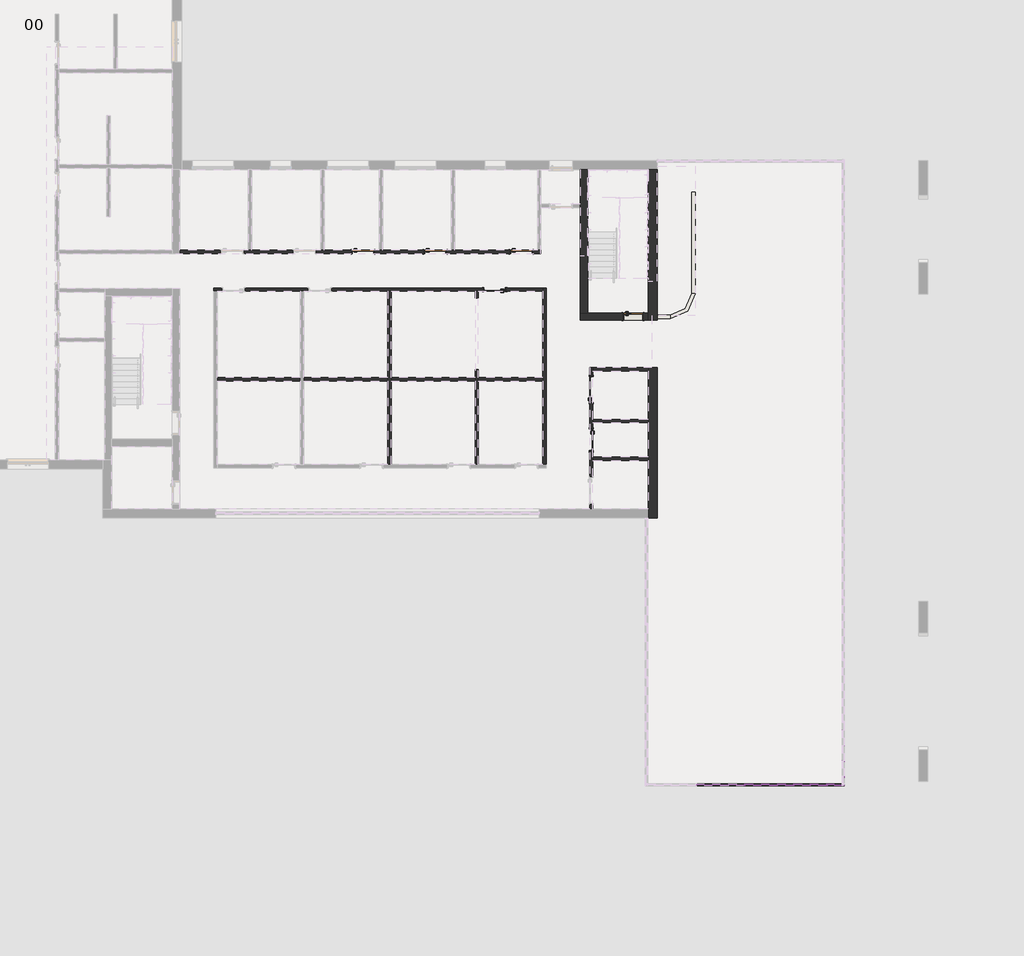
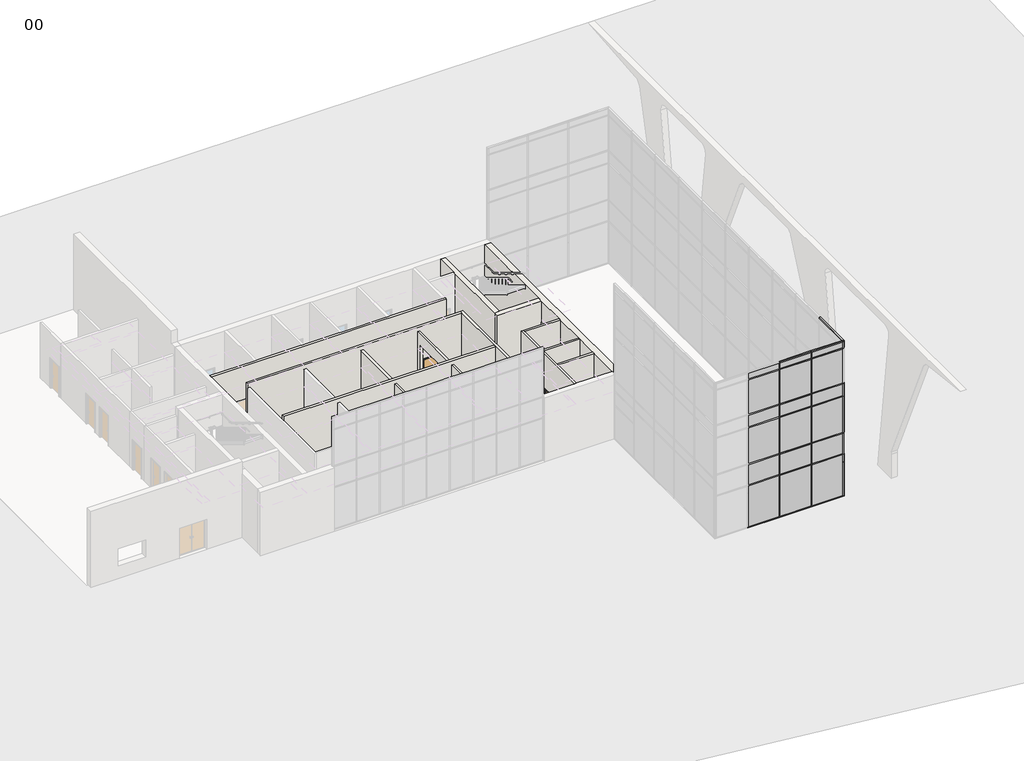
# One storey, part 4 of 11: 39 members, 18 plates, 16 walls, 7 doors.
"""IFC4 building model written with IfcOpenShell, lengths in millimetres."""

from ifc_helpers import new_model, si_unit, point, frame, frame_2d, origin, origin_with_axes, place, context, project, spatial, polyline, circle_curve, trimmed, segment, composite_curve, outline, extrude, faceted_brep, transform, mapped, element, save
from components import doors_intsgl_1_1010x2110mm_12a6edaf, doors_intsgl_1_1200x2110mm_e831e5cc, doors_intsgl_3_910x2110mm_ed6625c4, rectangular_mullion_curtainwallmullion_rectangular_generic_8ae0e668, rectangular_mullion_curtainwallmullion_rectangular_generic_15c16c91, rectangular_mullion_curtainwallmullion_rectangular_generic_08fbcc14, rectangular_mullion_curtainwallmullion_rectangular_generic_d5294c93, rectangular_mullion_curtainwallmullion_rectangular_generic_779ca808, rectangular_mullion_curtainwallmullion_rectangular_generic_397fb318, rectangular_mullion_curtainwallmullion_rectangular_generic_0800385b, rectangular_mullion_curtainwallmullion_rectangular_generic_25199054, rectangular_mullion_curtainwallmullion_rectangular_generic_f1446028, rectangular_mullion_curtainwallmullion_rectangular_generic_cb270087, rectangular_mullion_curtainwallmullion_rectangular_generic_974284e1, rectangular_mullion_curtainwallmullion_rectangular_generic_654ac675, rectangular_mullion_curtainwallmullion_rectangular_generic_e7c47ca9, rectangular_mullion_curtainwallmullion_rectangular_generic_c0600e94, rectangular_mullion_curtainwallmullion_rectangular_generic_3bdb59d8, rectangular_mullion_curtainwallmullion_rectangular_generic_aa8766cf, rectangular_mullion_curtainwallmullion_rectangular_generic_c640f651, rectangular_mullion_curtainwallmullion_rectangular_generic_afb0b622, rectangular_mullion_curtainwallmullion_rectangular_generic_d47b8a9d, system_panel_curtainpanel_glazed_9120b6e5, system_panel_curtainpanel_glazed_a0842033, system_panel_curtainpanel_glazed_19b159b3, system_panel_curtainpanel_solid_62146879, system_panel_curtainpanel_solid_ebe6707a, system_panel_curtainpanel_solid_ff987cd1

model = new_model("IFC4")

# Units and contexts
model_context = context("Model", 3, world=origin())
ifc_project = project(units=[si_unit("LENGTHUNIT", "METRE", prefix="MILLI")], contexts=[model_context])

# Site, building, storey
site = spatial("IfcSite", under=ifc_project)
building = spatial("IfcBuilding", under=site)
storey = spatial("IfcBuildingStorey", under=building, Name="00", Elevation=0.0)

# Doors
placement = place(None, origin())
doors_intsgl_1_1010x2110mm_shape = doors_intsgl_1_1010x2110mm_12a6edaf(model_context)
element("IfcDoor", 1, ObjectType="Doors_IntSgl_1 : 1010x2110mm", at=placement, inside=storey, context=model_context, shape_type="MappedRepresentation", body=[
    mapped(doors_intsgl_1_1010x2110mm_shape, transform((433317.3206883, -385124.0026386, 0.0), x_axis=(1.0, 0.0, 0.0), y_axis=(0.0, 1.0, 0.0), z_axis=(0.0, 0.0, 1.0))),
])
element("IfcDoor", 2, ObjectType="Doors_IntSgl_1 : 1010x2110mm", at=placement, inside=storey, context=model_context, shape_type="MappedRepresentation", body=[
    mapped(doors_intsgl_1_1010x2110mm_shape, transform((436467.3206883, -385124.0026386, 0.0), x_axis=(1.0, 0.0, 0.0), y_axis=(0.0, 1.0, 0.0), z_axis=(0.0, 0.0, 1.0))),
])
element("IfcDoor", 3, ObjectType="Doors_IntSgl_1 : 1010x2110mm", at=placement, inside=storey, context=model_context, shape_type="MappedRepresentation", body=[
    mapped(doors_intsgl_1_1010x2110mm_shape, transform((440217.3206883, -385124.0026386, 0.0), x_axis=(1.0, 0.0, 0.0), y_axis=(0.0, 1.0, 0.0), z_axis=(0.0, 0.0, 1.0))),
])
element("IfcDoor", 4, ObjectType="Doors_IntSgl_1 : 1010x2110mm", at=placement, inside=storey, context=model_context, shape_type="MappedRepresentation", body=[
    mapped(doors_intsgl_1_1010x2110mm_shape, transform((443263.3206883, -393328.0026386, 0.0), x_axis=(0.0, -1.0, 0.0), y_axis=(1.0, 0.0, 0.0), z_axis=(0.0, 0.0, 1.0))),
])
element("IfcDoor", 5, ObjectType="Doors_IntSgl_1 : 1010x2110mm", at=placement, inside=storey, context=model_context, shape_type="MappedRepresentation", body=[
    mapped(doors_intsgl_1_1010x2110mm_shape, transform((439053.3206883, -386774.0026386, 0.0), x_axis=(-1.0, 0.0, 0.0), y_axis=(0.0, -1.0, 0.0), z_axis=(0.0, 0.0, 1.0))),
])
doors_intsgl_1_1200x2110mm_shape = doors_intsgl_1_1200x2110mm_e831e5cc(model_context)
element("IfcDoor", 6, ObjectType="Doors_IntSgl_1 : 1200x2110mm", at=placement, inside=storey, context=model_context, shape_type="MappedRepresentation", body=[
    mapped(doors_intsgl_1_1200x2110mm_shape, transform((443263.3206883, -391128.0026386, 0.0), x_axis=(0.0, 1.0, 0.0), y_axis=(-1.0, 0.0, 0.0), z_axis=(0.0, 0.0, 1.0))),
])
doors_intsgl_3_910x2110mm_shape = doors_intsgl_3_910x2110mm_ed6625c4(model_context)
element("IfcDoor", 7, ObjectType="Doors_IntSgl_3 : 910x2110mm", at=placement, inside=storey, context=model_context, shape_type="MappedRepresentation", body=[
    mapped(doors_intsgl_3_910x2110mm_shape, transform((445083.3206883, -387955.0026386, 0.0), x_axis=(1.0, 0.0, 0.0), y_axis=(0.0, 1.0, 0.0), z_axis=(0.0, 0.0, 1.0))),
])

# Members
rectangular_mullion_curtainwallmullion_rectangular_generic_shape = rectangular_mullion_curtainwallmullion_rectangular_generic_8ae0e668(model_context)
element("IfcMember", 8, ObjectType="Rectangular Mullion : CurtainWallMullion_Rectangular_Generic", at=placement, inside=storey, context=model_context, shape_type="MappedRepresentation", body=[
    mapped(rectangular_mullion_curtainwallmullion_rectangular_generic_shape, transform((452089.3206882, -408366.0026386, 10486.7), x_axis=(-1.0, 0.0, 0.0), y_axis=(0.0, 1.0, 0.0), z_axis=(0.0, 0.0, -1.0))),
])
element("IfcMember", 9, ObjectType="Rectangular Mullion : CurtainWallMullion_Rectangular_Generic", at=placement, inside=storey, context=model_context, shape_type="MappedRepresentation", body=[
    mapped(rectangular_mullion_curtainwallmullion_rectangular_generic_shape, transform((449957.3206883, -408366.0026386, 10486.7), x_axis=(-1.0, 0.0, 0.0), y_axis=(0.0, 1.0, 0.0), z_axis=(0.0, 0.0, -1.0))),
])
rectangular_mullion_curtainwallmullion_rectangular_generic_2_shape = rectangular_mullion_curtainwallmullion_rectangular_generic_15c16c91(model_context)
element("IfcMember", 10, ObjectType="Rectangular Mullion : CurtainWallMullion_Rectangular_Generic", at=placement, inside=storey, context=model_context, shape_type="MappedRepresentation", body=[
    mapped(rectangular_mullion_curtainwallmullion_rectangular_generic_2_shape, transform((454246.3206883, -408366.0026386, 10486.7), x_axis=(0.0, -1.0, 0.0), y_axis=(-1.0, 0.0, 0.0), z_axis=(0.0, 0.0, -1.0))),
])
element("IfcMember", 11, ObjectType="Rectangular Mullion : CurtainWallMullion_Rectangular_Generic", at=placement, inside=storey, context=model_context, shape_type="MappedRepresentation", body=[
    mapped(rectangular_mullion_curtainwallmullion_rectangular_generic_2_shape, transform((454246.3206883, -408366.0026386, 10950.0), x_axis=(1.0, 0.0, 0.0), y_axis=(0.0, 1.0, 0.0), z_axis=(0.0, 0.0, 1.0))),
])
rectangular_mullion_curtainwallmullion_rectangular_generic_3_shape = rectangular_mullion_curtainwallmullion_rectangular_generic_08fbcc14(model_context)
element("IfcMember", 12, ObjectType="Rectangular Mullion : CurtainWallMullion_Rectangular_Generic", at=placement, inside=storey, context=model_context, shape_type="MappedRepresentation", body=[
    mapped(rectangular_mullion_curtainwallmullion_rectangular_generic_3_shape, transform((452089.3206882, -408366.0026386, 8000.0), x_axis=(-1.0, 0.0, 0.0), y_axis=(0.0, 1.0, 0.0), z_axis=(0.0, 0.0, -1.0))),
])
element("IfcMember", 13, ObjectType="Rectangular Mullion : CurtainWallMullion_Rectangular_Generic", at=placement, inside=storey, context=model_context, shape_type="MappedRepresentation", body=[
    mapped(rectangular_mullion_curtainwallmullion_rectangular_generic_3_shape, transform((449957.3206883, -408366.0026386, 8000.0), x_axis=(-1.0, 0.0, 0.0), y_axis=(0.0, 1.0, 0.0), z_axis=(0.0, 0.0, -1.0))),
])
rectangular_mullion_curtainwallmullion_rectangular_generic_4_shape = rectangular_mullion_curtainwallmullion_rectangular_generic_d5294c93(model_context)
element("IfcMember", 14, ObjectType="Rectangular Mullion : CurtainWallMullion_Rectangular_Generic", at=placement, inside=storey, context=model_context, shape_type="MappedRepresentation", body=[
    mapped(rectangular_mullion_curtainwallmullion_rectangular_generic_4_shape, transform((452089.3206882, -408366.0026386, 50.0), x_axis=(-1.0, 0.0, 0.0), y_axis=(0.0, 1.0, 0.0), z_axis=(0.0, 0.0, -1.0))),
])
element("IfcMember", 15, ObjectType="Rectangular Mullion : CurtainWallMullion_Rectangular_Generic", at=placement, inside=storey, context=model_context, shape_type="MappedRepresentation", body=[
    mapped(rectangular_mullion_curtainwallmullion_rectangular_generic_4_shape, transform((449957.3206883, -408366.0026386, 50.0), x_axis=(-1.0, 0.0, 0.0), y_axis=(0.0, 1.0, 0.0), z_axis=(0.0, 0.0, -1.0))),
])
rectangular_mullion_curtainwallmullion_rectangular_generic_5_shape = rectangular_mullion_curtainwallmullion_rectangular_generic_779ca808(model_context)
element("IfcMember", 16, ObjectType="Rectangular Mullion : CurtainWallMullion_Rectangular_Generic", at=placement, inside=storey, context=model_context, shape_type="MappedRepresentation", body=[
    mapped(rectangular_mullion_curtainwallmullion_rectangular_generic_5_shape, transform((454246.3206883, -408366.0026386, 2450.0), x_axis=(1.0, 0.0, 0.0), y_axis=(0.0, 1.0, 0.0), z_axis=(0.0, 0.0, 1.0))),
])
rectangular_mullion_curtainwallmullion_rectangular_generic_6_shape = rectangular_mullion_curtainwallmullion_rectangular_generic_397fb318(model_context)
element("IfcMember", 17, ObjectType="Rectangular Mullion : CurtainWallMullion_Rectangular_Generic", at=placement, inside=storey, context=model_context, shape_type="MappedRepresentation", body=[
    mapped(rectangular_mullion_curtainwallmullion_rectangular_generic_6_shape, transform((454246.3206883, -408366.0026386, 50.0), x_axis=(0.0, -1.0, 0.0), y_axis=(-1.0, 0.0, 0.0), z_axis=(0.0, 0.0, -1.0))),
])
rectangular_mullion_curtainwallmullion_rectangular_generic_7_shape = rectangular_mullion_curtainwallmullion_rectangular_generic_0800385b(model_context)
element("IfcMember", 18, ObjectType="Rectangular Mullion : CurtainWallMullion_Rectangular_Generic", at=placement, inside=storey, context=model_context, shape_type="MappedRepresentation", body=[
    mapped(rectangular_mullion_curtainwallmullion_rectangular_generic_7_shape, transform((454246.3206883, -408366.0026386, 11000.0), x_axis=(0.0, 0.0, 1.0), y_axis=(-1.0, 0.0, 0.0), z_axis=(0.0, -1.0, 0.0))),
])
rectangular_mullion_curtainwallmullion_rectangular_generic_8_shape = rectangular_mullion_curtainwallmullion_rectangular_generic_25199054(model_context)
element("IfcMember", 19, ObjectType="Rectangular Mullion : CurtainWallMullion_Rectangular_Generic", at=placement, inside=storey, context=model_context, shape_type="MappedRepresentation", body=[
    mapped(rectangular_mullion_curtainwallmullion_rectangular_generic_8_shape, transform((452089.3206882, -408366.0026386, 11000.0), x_axis=(0.0, 0.0, 1.0), y_axis=(0.0, 1.0, 0.0), z_axis=(-1.0, 0.0, 0.0))),
])
rectangular_mullion_curtainwallmullion_rectangular_generic_9_shape = rectangular_mullion_curtainwallmullion_rectangular_generic_f1446028(model_context)
element("IfcMember", 20, ObjectType="Rectangular Mullion : CurtainWallMullion_Rectangular_Generic", at=placement, inside=storey, context=model_context, shape_type="MappedRepresentation", body=[
    mapped(rectangular_mullion_curtainwallmullion_rectangular_generic_9_shape, transform((454246.3206883, -408366.0026386, 0.0), x_axis=(0.0, 0.0, -1.0), y_axis=(0.0, 1.0, 0.0), z_axis=(1.0, 0.0, 0.0))),
])
rectangular_mullion_curtainwallmullion_rectangular_generic_10_shape = rectangular_mullion_curtainwallmullion_rectangular_generic_cb270087(model_context)
element("IfcMember", 21, ObjectType="Rectangular Mullion : CurtainWallMullion_Rectangular_Generic", at=placement, inside=storey, context=model_context, shape_type="MappedRepresentation", body=[
    mapped(rectangular_mullion_curtainwallmullion_rectangular_generic_10_shape, transform((449957.3206883, -408366.0026386, 11000.0), x_axis=(0.0, 0.0, 1.0), y_axis=(0.0, 1.0, 0.0), z_axis=(-1.0, 0.0, 0.0))),
])
element("IfcMember", 22, ObjectType="Rectangular Mullion : CurtainWallMullion_Rectangular_Generic", at=placement, inside=storey, context=model_context, shape_type="MappedRepresentation", body=[
    mapped(rectangular_mullion_curtainwallmullion_rectangular_generic_10_shape, transform((452089.3206882, -408366.0026386, 0.0), x_axis=(0.0, 0.0, -1.0), y_axis=(0.0, 1.0, 0.0), z_axis=(1.0, 0.0, 0.0))),
])
element("IfcMember", 23, ObjectType="Rectangular Mullion : CurtainWallMullion_Rectangular_Generic", at=placement, inside=storey, context=model_context, shape_type="MappedRepresentation", body=[
    mapped(rectangular_mullion_curtainwallmullion_rectangular_generic_10_shape, transform((449957.3206883, -408366.0026386, 0.0), x_axis=(0.0, 0.0, -1.0), y_axis=(0.0, 1.0, 0.0), z_axis=(1.0, 0.0, 0.0))),
])
rectangular_mullion_curtainwallmullion_rectangular_generic_11_shape = rectangular_mullion_curtainwallmullion_rectangular_generic_974284e1(model_context)
element("IfcMember", 24, ObjectType="Rectangular Mullion : CurtainWallMullion_Rectangular_Generic", at=placement, inside=storey, context=model_context, shape_type="MappedRepresentation", body=[
    mapped(rectangular_mullion_curtainwallmullion_rectangular_generic_11_shape, transform((452114.3206882, -408366.0026386, 4500.0), x_axis=(0.0, 0.0, 1.0), y_axis=(0.0, 1.0, 0.0), z_axis=(-1.0, 0.0, 0.0))),
])
element("IfcMember", 25, ObjectType="Rectangular Mullion : CurtainWallMullion_Rectangular_Generic", at=placement, inside=storey, context=model_context, shape_type="MappedRepresentation", body=[
    mapped(rectangular_mullion_curtainwallmullion_rectangular_generic_11_shape, transform((449982.3206883, -408366.0026386, 4500.0), x_axis=(0.0, 0.0, 1.0), y_axis=(0.0, 1.0, 0.0), z_axis=(-1.0, 0.0, 0.0))),
])
element("IfcMember", 26, ObjectType="Rectangular Mullion : CurtainWallMullion_Rectangular_Generic", at=placement, inside=storey, context=model_context, shape_type="MappedRepresentation", body=[
    mapped(rectangular_mullion_curtainwallmullion_rectangular_generic_11_shape, transform((452114.3206882, -408366.0026386, 7100.0), x_axis=(0.0, 0.0, 1.0), y_axis=(0.0, 1.0, 0.0), z_axis=(-1.0, 0.0, 0.0))),
])
element("IfcMember", 27, ObjectType="Rectangular Mullion : CurtainWallMullion_Rectangular_Generic", at=placement, inside=storey, context=model_context, shape_type="MappedRepresentation", body=[
    mapped(rectangular_mullion_curtainwallmullion_rectangular_generic_11_shape, transform((449982.3206883, -408366.0026386, 7100.0), x_axis=(0.0, 0.0, 1.0), y_axis=(0.0, 1.0, 0.0), z_axis=(-1.0, 0.0, 0.0))),
])
element("IfcMember", 28, ObjectType="Rectangular Mullion : CurtainWallMullion_Rectangular_Generic", at=placement, inside=storey, context=model_context, shape_type="MappedRepresentation", body=[
    mapped(rectangular_mullion_curtainwallmullion_rectangular_generic_11_shape, transform((452114.3206882, -408366.0026386, 10486.7), x_axis=(0.0, 0.0, 1.0), y_axis=(0.0, 1.0, 0.0), z_axis=(-1.0, 0.0, 0.0))),
])
element("IfcMember", 29, ObjectType="Rectangular Mullion : CurtainWallMullion_Rectangular_Generic", at=placement, inside=storey, context=model_context, shape_type="MappedRepresentation", body=[
    mapped(rectangular_mullion_curtainwallmullion_rectangular_generic_11_shape, transform((449982.3206883, -408366.0026386, 10486.7), x_axis=(0.0, 0.0, 1.0), y_axis=(0.0, 1.0, 0.0), z_axis=(-1.0, 0.0, 0.0))),
])
element("IfcMember", 30, ObjectType="Rectangular Mullion : CurtainWallMullion_Rectangular_Generic", at=placement, inside=storey, context=model_context, shape_type="MappedRepresentation", body=[
    mapped(rectangular_mullion_curtainwallmullion_rectangular_generic_11_shape, transform((452114.3206882, -408366.0026386, 3000.0), x_axis=(0.0, 0.0, 1.0), y_axis=(0.0, 1.0, 0.0), z_axis=(-1.0, 0.0, 0.0))),
])
element("IfcMember", 31, ObjectType="Rectangular Mullion : CurtainWallMullion_Rectangular_Generic", at=placement, inside=storey, context=model_context, shape_type="MappedRepresentation", body=[
    mapped(rectangular_mullion_curtainwallmullion_rectangular_generic_11_shape, transform((449982.3206883, -408366.0026386, 3000.0), x_axis=(0.0, 0.0, 1.0), y_axis=(0.0, 1.0, 0.0), z_axis=(-1.0, 0.0, 0.0))),
])
element("IfcMember", 32, ObjectType="Rectangular Mullion : CurtainWallMullion_Rectangular_Generic", at=placement, inside=storey, context=model_context, shape_type="MappedRepresentation", body=[
    mapped(rectangular_mullion_curtainwallmullion_rectangular_generic_11_shape, transform((452114.3206882, -408366.0026386, 8000.0), x_axis=(0.0, 0.0, 1.0), y_axis=(0.0, 1.0, 0.0), z_axis=(-1.0, 0.0, 0.0))),
])
element("IfcMember", 33, ObjectType="Rectangular Mullion : CurtainWallMullion_Rectangular_Generic", at=placement, inside=storey, context=model_context, shape_type="MappedRepresentation", body=[
    mapped(rectangular_mullion_curtainwallmullion_rectangular_generic_11_shape, transform((449982.3206883, -408366.0026386, 8000.0), x_axis=(0.0, 0.0, 1.0), y_axis=(0.0, 1.0, 0.0), z_axis=(-1.0, 0.0, 0.0))),
])
rectangular_mullion_curtainwallmullion_rectangular_generic_12_shape = rectangular_mullion_curtainwallmullion_rectangular_generic_654ac675(model_context)
element("IfcMember", 34, ObjectType="Rectangular Mullion : CurtainWallMullion_Rectangular_Generic", at=placement, inside=storey, context=model_context, shape_type="MappedRepresentation", body=[
    mapped(rectangular_mullion_curtainwallmullion_rectangular_generic_12_shape, transform((452089.3206882, -408366.0026386, 4500.0), x_axis=(-1.0, 0.0, 0.0), y_axis=(0.0, 1.0, 0.0), z_axis=(0.0, 0.0, -1.0))),
])
element("IfcMember", 35, ObjectType="Rectangular Mullion : CurtainWallMullion_Rectangular_Generic", at=placement, inside=storey, context=model_context, shape_type="MappedRepresentation", body=[
    mapped(rectangular_mullion_curtainwallmullion_rectangular_generic_12_shape, transform((449957.3206883, -408366.0026386, 4500.0), x_axis=(-1.0, 0.0, 0.0), y_axis=(0.0, 1.0, 0.0), z_axis=(0.0, 0.0, -1.0))),
])
rectangular_mullion_curtainwallmullion_rectangular_generic_13_shape = rectangular_mullion_curtainwallmullion_rectangular_generic_e7c47ca9(model_context)
element("IfcMember", 36, ObjectType="Rectangular Mullion : CurtainWallMullion_Rectangular_Generic", at=placement, inside=storey, context=model_context, shape_type="MappedRepresentation", body=[
    mapped(rectangular_mullion_curtainwallmullion_rectangular_generic_13_shape, transform((454246.3206883, -408366.0026386, 4500.0), x_axis=(0.0, -1.0, 0.0), y_axis=(-1.0, 0.0, 0.0), z_axis=(0.0, 0.0, -1.0))),
])
element("IfcMember", 37, ObjectType="Rectangular Mullion : CurtainWallMullion_Rectangular_Generic", at=placement, inside=storey, context=model_context, shape_type="MappedRepresentation", body=[
    mapped(rectangular_mullion_curtainwallmullion_rectangular_generic_13_shape, transform((454246.3206883, -408366.0026386, 7100.0), x_axis=(1.0, 0.0, 0.0), y_axis=(0.0, 1.0, 0.0), z_axis=(0.0, 0.0, 1.0))),
])
rectangular_mullion_curtainwallmullion_rectangular_generic_14_shape = rectangular_mullion_curtainwallmullion_rectangular_generic_c0600e94(model_context)
element("IfcMember", 38, ObjectType="Rectangular Mullion : CurtainWallMullion_Rectangular_Generic", at=placement, inside=storey, context=model_context, shape_type="MappedRepresentation", body=[
    mapped(rectangular_mullion_curtainwallmullion_rectangular_generic_14_shape, transform((452089.3206882, -408366.0026386, 3000.0), x_axis=(-1.0, 0.0, 0.0), y_axis=(0.0, 1.0, 0.0), z_axis=(0.0, 0.0, -1.0))),
])
element("IfcMember", 39, ObjectType="Rectangular Mullion : CurtainWallMullion_Rectangular_Generic", at=placement, inside=storey, context=model_context, shape_type="MappedRepresentation", body=[
    mapped(rectangular_mullion_curtainwallmullion_rectangular_generic_14_shape, transform((449957.3206883, -408366.0026386, 3000.0), x_axis=(-1.0, 0.0, 0.0), y_axis=(0.0, 1.0, 0.0), z_axis=(0.0, 0.0, -1.0))),
])
rectangular_mullion_curtainwallmullion_rectangular_generic_15_shape = rectangular_mullion_curtainwallmullion_rectangular_generic_3bdb59d8(model_context)
element("IfcMember", 40, ObjectType="Rectangular Mullion : CurtainWallMullion_Rectangular_Generic", at=placement, inside=storey, context=model_context, shape_type="MappedRepresentation", body=[
    mapped(rectangular_mullion_curtainwallmullion_rectangular_generic_15_shape, transform((454246.3206883, -408366.0026386, 4500.0), x_axis=(1.0, 0.0, 0.0), y_axis=(0.0, 1.0, 0.0), z_axis=(0.0, 0.0, 1.0))),
])
rectangular_mullion_curtainwallmullion_rectangular_generic_16_shape = rectangular_mullion_curtainwallmullion_rectangular_generic_aa8766cf(model_context)
element("IfcMember", 41, ObjectType="Rectangular Mullion : CurtainWallMullion_Rectangular_Generic", at=placement, inside=storey, context=model_context, shape_type="MappedRepresentation", body=[
    mapped(rectangular_mullion_curtainwallmullion_rectangular_generic_16_shape, transform((452089.3206882, -408366.0026386, 2450.0), x_axis=(-1.0, 0.0, 0.0), y_axis=(0.0, 1.0, 0.0), z_axis=(0.0, 0.0, -1.0))),
])
element("IfcMember", 42, ObjectType="Rectangular Mullion : CurtainWallMullion_Rectangular_Generic", at=placement, inside=storey, context=model_context, shape_type="MappedRepresentation", body=[
    mapped(rectangular_mullion_curtainwallmullion_rectangular_generic_16_shape, transform((449957.3206883, -408366.0026386, 2450.0), x_axis=(-1.0, 0.0, 0.0), y_axis=(0.0, 1.0, 0.0), z_axis=(0.0, 0.0, -1.0))),
])
rectangular_mullion_curtainwallmullion_rectangular_generic_17_shape = rectangular_mullion_curtainwallmullion_rectangular_generic_c640f651(model_context)
element("IfcMember", 43, ObjectType="Rectangular Mullion : CurtainWallMullion_Rectangular_Generic", at=placement, inside=storey, context=model_context, shape_type="MappedRepresentation", body=[
    mapped(rectangular_mullion_curtainwallmullion_rectangular_generic_17_shape, transform((452089.3206882, -408366.0026386, 7100.0), x_axis=(-1.0, 0.0, 0.0), y_axis=(0.0, 1.0, 0.0), z_axis=(0.0, 0.0, -1.0))),
])
element("IfcMember", 44, ObjectType="Rectangular Mullion : CurtainWallMullion_Rectangular_Generic", at=placement, inside=storey, context=model_context, shape_type="MappedRepresentation", body=[
    mapped(rectangular_mullion_curtainwallmullion_rectangular_generic_17_shape, transform((449957.3206883, -408366.0026386, 7100.0), x_axis=(-1.0, 0.0, 0.0), y_axis=(0.0, 1.0, 0.0), z_axis=(0.0, 0.0, -1.0))),
])
rectangular_mullion_curtainwallmullion_rectangular_generic_18_shape = rectangular_mullion_curtainwallmullion_rectangular_generic_afb0b622(model_context)
element("IfcMember", 45, ObjectType="Rectangular Mullion : CurtainWallMullion_Rectangular_Generic", at=placement, inside=storey, context=model_context, shape_type="MappedRepresentation", body=[
    mapped(rectangular_mullion_curtainwallmullion_rectangular_generic_18_shape, transform((454246.3206883, -408366.0026386, 7100.0), x_axis=(0.0, -1.0, 0.0), y_axis=(-1.0, 0.0, 0.0), z_axis=(0.0, 0.0, -1.0))),
])
rectangular_mullion_curtainwallmullion_rectangular_generic_19_shape = rectangular_mullion_curtainwallmullion_rectangular_generic_d47b8a9d(model_context)
element("IfcMember", 46, ObjectType="Rectangular Mullion : CurtainWallMullion_Rectangular_Generic", at=placement, inside=storey, context=model_context, shape_type="MappedRepresentation", body=[
    mapped(rectangular_mullion_curtainwallmullion_rectangular_generic_19_shape, transform((454246.3206883, -408366.0026386, 2425.0), x_axis=(0.0, -1.0, 0.0), y_axis=(-1.0, 0.0, 0.0), z_axis=(0.0, 0.0, -1.0))),
])

# Plates
system_panel_curtainpanel_glazed_shape = system_panel_curtainpanel_glazed_9120b6e5(model_context)
element("IfcPlate", 47, ObjectType="System Panel : CurtainPanel_Glazed", at=placement, inside=storey, context=model_context, shape_type="MappedRepresentation", body=[
    mapped(system_panel_curtainpanel_glazed_shape, transform((453155.3206883, -408366.0026386, 8025.0), x_axis=(-1.0, 0.0, 0.0), y_axis=(0.0, -1.0, 0.0), z_axis=(0.0, 0.0, 1.0))),
])
element("IfcPlate", 48, ObjectType="System Panel : CurtainPanel_Glazed", at=placement, inside=storey, context=model_context, shape_type="MappedRepresentation", body=[
    mapped(system_panel_curtainpanel_glazed_shape, transform((451023.3206883, -408366.0026386, 8025.0), x_axis=(-1.0, 0.0, 0.0), y_axis=(0.0, -1.0, 0.0), z_axis=(0.0, 0.0, 1.0))),
])
element("IfcPlate", 49, ObjectType="System Panel : CurtainPanel_Glazed", at=placement, inside=storey, context=model_context, shape_type="MappedRepresentation", body=[
    mapped(system_panel_curtainpanel_glazed_shape, transform((448891.3206884, -408366.0026386, 8025.0), x_axis=(-1.0, 0.0, 0.0), y_axis=(0.0, -1.0, 0.0), z_axis=(0.0, 0.0, 1.0))),
])
system_panel_curtainpanel_glazed_2_shape = system_panel_curtainpanel_glazed_a0842033(model_context)
element("IfcPlate", 50, ObjectType="System Panel : CurtainPanel_Glazed", at=placement, inside=storey, context=model_context, shape_type="MappedRepresentation", body=[
    mapped(system_panel_curtainpanel_glazed_2_shape, transform((453155.3206883, -408366.0026386, 50.0), x_axis=(-1.0, 0.0, 0.0), y_axis=(0.0, -1.0, 0.0), z_axis=(0.0, 0.0, 1.0))),
])
element("IfcPlate", 51, ObjectType="System Panel : CurtainPanel_Glazed", at=placement, inside=storey, context=model_context, shape_type="MappedRepresentation", body=[
    mapped(system_panel_curtainpanel_glazed_2_shape, transform((451023.3206883, -408366.0026386, 50.0), x_axis=(-1.0, 0.0, 0.0), y_axis=(0.0, -1.0, 0.0), z_axis=(0.0, 0.0, 1.0))),
])
element("IfcPlate", 52, ObjectType="System Panel : CurtainPanel_Glazed", at=placement, inside=storey, context=model_context, shape_type="MappedRepresentation", body=[
    mapped(system_panel_curtainpanel_glazed_2_shape, transform((448891.3206884, -408366.0026386, 50.0), x_axis=(-1.0, 0.0, 0.0), y_axis=(0.0, -1.0, 0.0), z_axis=(0.0, 0.0, 1.0))),
])
system_panel_curtainpanel_glazed_3_shape = system_panel_curtainpanel_glazed_19b159b3(model_context)
element("IfcPlate", 53, ObjectType="System Panel : CurtainPanel_Glazed", at=placement, inside=storey, context=model_context, shape_type="MappedRepresentation", body=[
    mapped(system_panel_curtainpanel_glazed_3_shape, transform((453155.3206883, -408366.0026386, 4525.0), x_axis=(-1.0, 0.0, 0.0), y_axis=(0.0, -1.0, 0.0), z_axis=(0.0, 0.0, 1.0))),
])
element("IfcPlate", 54, ObjectType="System Panel : CurtainPanel_Glazed", at=placement, inside=storey, context=model_context, shape_type="MappedRepresentation", body=[
    mapped(system_panel_curtainpanel_glazed_3_shape, transform((451023.3206883, -408366.0026386, 4525.0), x_axis=(-1.0, 0.0, 0.0), y_axis=(0.0, -1.0, 0.0), z_axis=(0.0, 0.0, 1.0))),
])
element("IfcPlate", 55, ObjectType="System Panel : CurtainPanel_Glazed", at=placement, inside=storey, context=model_context, shape_type="MappedRepresentation", body=[
    mapped(system_panel_curtainpanel_glazed_3_shape, transform((448891.3206884, -408366.0026386, 4525.0), x_axis=(-1.0, 0.0, 0.0), y_axis=(0.0, -1.0, 0.0), z_axis=(0.0, 0.0, 1.0))),
])
system_panel_curtainpanel_solid_shape = system_panel_curtainpanel_solid_62146879(model_context)
element("IfcPlate", 56, ObjectType="System Panel : CurtainPanel_Solid", at=placement, inside=storey, context=model_context, shape_type="MappedRepresentation", body=[
    mapped(system_panel_curtainpanel_solid_shape, transform((453155.3206883, -408366.0026386, 10511.7), x_axis=(-1.0, 0.0, 0.0), y_axis=(0.0, -1.0, 0.0), z_axis=(0.0, 0.0, 1.0))),
])
element("IfcPlate", 57, ObjectType="System Panel : CurtainPanel_Solid", at=placement, inside=storey, context=model_context, shape_type="MappedRepresentation", body=[
    mapped(system_panel_curtainpanel_solid_shape, transform((451023.3206883, -408366.0026386, 10511.7), x_axis=(-1.0, 0.0, 0.0), y_axis=(0.0, -1.0, 0.0), z_axis=(0.0, 0.0, 1.0))),
])
element("IfcPlate", 58, ObjectType="System Panel : CurtainPanel_Solid", at=placement, inside=storey, context=model_context, shape_type="MappedRepresentation", body=[
    mapped(system_panel_curtainpanel_solid_shape, transform((448891.3206884, -408366.0026386, 10511.7), x_axis=(-1.0, 0.0, 0.0), y_axis=(0.0, -1.0, 0.0), z_axis=(0.0, 0.0, 1.0))),
])
system_panel_curtainpanel_solid_2_shape = system_panel_curtainpanel_solid_ebe6707a(model_context)
element("IfcPlate", 59, ObjectType="System Panel : CurtainPanel_Solid", at=placement, inside=storey, context=model_context, shape_type="MappedRepresentation", body=[
    mapped(system_panel_curtainpanel_solid_2_shape, transform((453155.3206883, -408366.0026386, 3025.0), x_axis=(-1.0, 0.0, 0.0), y_axis=(0.0, -1.0, 0.0), z_axis=(0.0, 0.0, 1.0))),
])
element("IfcPlate", 60, ObjectType="System Panel : CurtainPanel_Solid", at=placement, inside=storey, context=model_context, shape_type="MappedRepresentation", body=[
    mapped(system_panel_curtainpanel_solid_2_shape, transform((451023.3206883, -408366.0026386, 3025.0), x_axis=(-1.0, 0.0, 0.0), y_axis=(0.0, -1.0, 0.0), z_axis=(0.0, 0.0, 1.0))),
])
element("IfcPlate", 61, ObjectType="System Panel : CurtainPanel_Solid", at=placement, inside=storey, context=model_context, shape_type="MappedRepresentation", body=[
    mapped(system_panel_curtainpanel_solid_2_shape, transform((448891.3206884, -408366.0026386, 3025.0), x_axis=(-1.0, 0.0, 0.0), y_axis=(0.0, -1.0, 0.0), z_axis=(0.0, 0.0, 1.0))),
])
system_panel_curtainpanel_solid_3_shape = system_panel_curtainpanel_solid_ff987cd1(model_context)
element("IfcPlate", 62, ObjectType="System Panel : CurtainPanel_Solid", at=placement, inside=storey, context=model_context, shape_type="MappedRepresentation", body=[
    mapped(system_panel_curtainpanel_solid_3_shape, transform((453155.3206883, -408366.0026386, 7125.0), x_axis=(-1.0, 0.0, 0.0), y_axis=(0.0, -1.0, 0.0), z_axis=(0.0, 0.0, 1.0))),
])
element("IfcPlate", 63, ObjectType="System Panel : CurtainPanel_Solid", at=placement, inside=storey, context=model_context, shape_type="MappedRepresentation", body=[
    mapped(system_panel_curtainpanel_solid_3_shape, transform((451023.3206883, -408366.0026386, 7125.0), x_axis=(-1.0, 0.0, 0.0), y_axis=(0.0, -1.0, 0.0), z_axis=(0.0, 0.0, 1.0))),
])
element("IfcPlate", 64, ObjectType="System Panel : CurtainPanel_Solid", at=placement, inside=storey, context=model_context, shape_type="MappedRepresentation", body=[
    mapped(system_panel_curtainpanel_solid_3_shape, transform((448891.3206884, -408366.0026386, 7125.0), x_axis=(-1.0, 0.0, 0.0), y_axis=(0.0, -1.0, 0.0), z_axis=(0.0, 0.0, 1.0))),
])

# Walls
element("IfcWall", 65, ObjectType="Wall_Exterior_WSUK", at=placement, inside=storey, context=model_context, shape_type="Brep", body=[
    faceted_brep([(445738.3206883, -381550.0026386, -1000.0), (445738.3206883, -387800.0026386, -1000.0), (445738.3206883, -388110.0026386, -1000.0), (445738.3206883, -396328.0026386, -1000.0), (445738.3206883, -396730.0026386, -1000.0), (445738.3206883, -396730.0026386, 4500.0), (445738.3206883, -396328.0026386, 4500.0), (445738.3206883, -394228.0026386, 4500.0), (445738.3206883, -394078.0026386, 4500.0), (445738.3206883, -392578.0026386, 4500.0), (445738.3206883, -392428.0026386, 4500.0), (445738.3206883, -390328.0026386, 4500.0), (445738.3206883, -390178.0026386, 4500.0), (445738.3206883, -388110.0026386, 4500.0), (445738.3206883, -387800.0026386, 4500.0), (445738.3206883, -381550.0026386, 4500.0), (445738.3206883, -388110.0026386, 3000.0), (445738.3206883, -390178.0026386, 3000.0), (445738.3206883, -390178.0026386, 0.0), (445738.3206883, -390178.0026386, -500.0), (445738.3206883, -388110.0026386, -500.0), (445738.3206883, -388110.0026386, 0.0), (445738.3206883, -388030.0026386, 0.0), (445738.3206883, -388030.0026386, 800.0), (445738.3206883, -388110.0026386, 800.0), (446140.3206883, -396730.0026386, 4500.0), (446140.3206883, -396730.0026386, -1000.0), (446140.3206883, -381550.0026386, -1000.0), (446140.3206883, -381550.0026386, 4500.0), (446140.3206883, -388110.0026386, 4500.0), (446140.3206883, -390178.0026386, 4500.0), (446140.3206883, -390178.0026386, 3000.0), (446140.3206883, -388110.0026386, 3000.0), (446140.3206883, -388110.0026386, 800.0), (446140.3206883, -388030.0026386, 800.0), (446140.3206883, -388030.0026386, 0.0), (446140.3206883, -388110.0026386, 0.0), (446140.3206883, -388110.0026386, -500.0), (446140.3206883, -390178.0026386, -500.0)], [[[0, 1, 2, 3, 4, 5, 6, 7, 8, 9, 10, 11, 12, 13, 14, 15], [16, 17, 18, 19, 20, 21, 22, 23, 24]], [[25, 26, 27, 28, 29, 30], [31, 32, 33, 34, 35, 36, 37, 38]], [[4, 3, 2, 1, 0, 27, 26]], [[15, 14, 13, 12, 11, 10, 9, 8, 7, 6, 5, 25, 30, 29, 28]], [[0, 15, 28, 27]], [[4, 26, 25, 5]], [[16, 32, 31, 17]], [[19, 38, 37, 20]], [[32, 16, 24, 33]], [[35, 22, 21, 36]], [[21, 20, 37, 36]], [[33, 24, 23, 34]], [[23, 22, 35, 34]], [[17, 31, 38, 19, 18]]]),
])
element("IfcWall", 66, ObjectType="Wall_Interior_WSUK", at=placement, inside=storey, context=model_context, shape_type="Brep", body=[
    faceted_brep([(441072.3206883, -385199.0026386, 4500.0), (425322.3206883, -385199.0026386, 4500.0), (425322.3206883, -385199.0026386, 3019.2), (425322.3206883, -385199.0026386, 0.0), (427112.3206883, -385199.0026386, 0.0), (427112.3206883, -385199.0026386, 2110.0), (428122.3206883, -385199.0026386, 2110.0), (428122.3206883, -385199.0026386, 0.0), (430262.3206883, -385199.0026386, 0.0), (430262.3206883, -385199.0026386, 2110.0), (431272.3206883, -385199.0026386, 2110.0), (431272.3206883, -385199.0026386, 0.0), (432812.3206883, -385199.0026386, 0.0), (432812.3206883, -385199.0026386, 2110.0), (433822.3206883, -385199.0026386, 2110.0), (433822.3206883, -385199.0026386, 0.0), (435962.3206883, -385199.0026386, 0.0), (435962.3206883, -385199.0026386, 2110.0), (436972.3206883, -385199.0026386, 2110.0), (436972.3206883, -385199.0026386, 0.0), (439712.3206883, -385199.0026386, 0.0), (439712.3206883, -385199.0026386, 2110.0), (440722.3206883, -385199.0026386, 2110.0), (440722.3206883, -385199.0026386, 0.0), (441072.3206883, -385199.0026386, 0.0), (425322.3206883, -385049.0026386, 4500.0), (428322.3206883, -385049.0026386, 4500.0), (428472.3206883, -385049.0026386, 4500.0), (431472.3206883, -385049.0026386, 4500.0), (431622.3206883, -385049.0026386, 4500.0), (434022.3206883, -385049.0026386, 4500.0), (434172.3206883, -385049.0026386, 4500.0), (437172.3206883, -385049.0026386, 4500.0), (437322.3206883, -385049.0026386, 4500.0), (440922.3206883, -385049.0026386, 4500.0), (441072.3206883, -385049.0026386, 4500.0), (441072.3206883, -385049.0026386, 0.0), (440922.3206883, -385049.0026386, 0.0), (440722.3206883, -385049.0026386, 0.0), (440722.3206883, -385049.0026386, 2110.0), (439712.3206883, -385049.0026386, 2110.0), (439712.3206883, -385049.0026386, 0.0), (437322.3206883, -385049.0026386, 0.0), (437172.3206883, -385049.0026386, 0.0), (436972.3206883, -385049.0026386, 0.0), (436972.3206883, -385049.0026386, 2110.0), (435962.3206883, -385049.0026386, 2110.0), (435962.3206883, -385049.0026386, 0.0), (434172.3206883, -385049.0026386, 0.0), (434022.3206883, -385049.0026386, 0.0), (433822.3206883, -385049.0026386, 0.0), (433822.3206883, -385049.0026386, 2110.0), (432812.3206883, -385049.0026386, 2110.0), (432812.3206883, -385049.0026386, 0.0), (431622.3206883, -385049.0026386, 0.0), (431472.3206883, -385049.0026386, 0.0), (431272.3206883, -385049.0026386, 0.0), (431272.3206883, -385049.0026386, 2110.0), (430262.3206883, -385049.0026386, 2110.0), (430262.3206883, -385049.0026386, 0.0), (428472.3206883, -385049.0026386, 0.0), (428322.3206883, -385049.0026386, 0.0), (428122.3206883, -385049.0026386, 0.0), (428122.3206883, -385049.0026386, 2110.0), (427112.3206883, -385049.0026386, 2110.0), (427112.3206883, -385049.0026386, 0.0), (425322.3206883, -385049.0026386, 0.0)], [[[0, 1, 2, 3, 4, 5, 6, 7, 8, 9, 10, 11, 12, 13, 14, 15, 16, 17, 18, 19, 20, 21, 22, 23, 24]], [[25, 26, 27, 28, 29, 30, 31, 32, 33, 34, 35, 36, 37, 38, 39, 40, 41, 42, 43, 44, 45, 46, 47, 48, 49, 50, 51, 52, 53, 54, 55, 56, 57, 58, 59, 60, 61, 62, 63, 64, 65, 66]], [[36, 24, 23, 38, 37]], [[4, 3, 66, 65]], [[7, 62, 61, 60, 59, 8]], [[11, 56, 55, 54, 53, 12]], [[15, 50, 49, 48, 47, 16]], [[19, 44, 43, 42, 41, 20]], [[1, 0, 35, 34, 33, 32, 31, 30, 29, 28, 27, 26, 25]], [[0, 24, 36, 35]], [[6, 63, 62, 7]], [[63, 6, 5, 64]], [[64, 5, 4, 65]], [[10, 57, 56, 11]], [[57, 10, 9, 58]], [[58, 9, 8, 59]], [[14, 51, 50, 15]], [[51, 14, 13, 52]], [[52, 13, 12, 53]], [[18, 45, 44, 19]], [[45, 18, 17, 46]], [[46, 17, 16, 47]], [[22, 39, 38, 23]], [[39, 22, 21, 40]], [[40, 21, 20, 41]], [[1, 25, 66, 3, 2]]]),
])
element("IfcWall", 67, ObjectType="Wall_Exterior_WSUK 2hr", at=placement, inside=storey, context=model_context, shape_type="Brep", body=[
    faceted_brep([(442792.3206883, -381550.0026386, -1000.0), (442792.3206883, -387800.0026386, -1000.0), (442792.3206883, -387800.0026386, 4500.0), (442792.3206883, -383200.0026386, 4500.0), (442792.3206883, -383050.0026386, 4500.0), (442792.3206883, -381550.0026386, 4500.0), (443102.3206883, -381550.0026386, -1000.0), (443102.3206883, -381550.0026386, 4500.0), (443102.3206883, -387800.0026386, 4500.0), (443102.3206883, -387800.0026386, -1000.0)], [[[0, 1, 2, 3, 4, 5]], [[6, 7, 8, 9]], [[1, 0, 6, 9]], [[5, 4, 3, 2, 8, 7]], [[0, 5, 7, 6]], [[2, 1, 9, 8]]]),
])
element("IfcWall", 68, ObjectType="Wall_Interior_WSUK", at=placement, inside=storey, context=model_context, shape_type="SweptSolid", body=[
    extrude(outline(polyline([(446715.3206883, -388030.0026386), (446140.3206883, -388030.0026386), (446140.3206883, -387880.0026386), (446715.3206883, -387880.0026386), (446715.3206883, -388030.0026386)])), origin_with_axes(), (0.0, 0.0, 1.0), 800.0),
])
element("IfcWall", 69, ObjectType="Wall_Interior_WSUK", at=placement, inside=storey, context=model_context, shape_type="SweptSolid", body=[
    extrude(outline(polyline([(447790.3206883, -382533.0026386), (447790.3206883, -386955.0026386), (447640.3206883, -386955.0026386), (447640.3206883, -382533.0026386), (447790.3206883, -382533.0026386)])), origin_with_axes(), (0.0, 0.0, 1.0), 800.0),
])
element("IfcWall", 70, ObjectType="Wall_Interior_WSUK", at=placement, inside=storey, context=model_context, shape_type="Brep", body=[
    faceted_brep([(443188.3206883, -396328.0026386, 4500.0), (443188.3206883, -390178.0026386, 4500.0), (443188.3206883, -390178.0026386, 0.0), (443188.3206883, -390528.0026386, 0.0), (443188.3206883, -390528.0026386, 2110.0), (443188.3206883, -391728.0026386, 2110.0), (443188.3206883, -391728.0026386, 0.0), (443188.3206883, -392823.0026386, 0.0), (443188.3206883, -392823.0026386, 2110.0), (443188.3206883, -393833.0026386, 2110.0), (443188.3206883, -393833.0026386, 0.0), (443188.3206883, -394928.0026386, 0.0), (443188.3206883, -394928.0026386, 2110.0), (443188.3206883, -396128.0026386, 2110.0), (443188.3206883, -396128.0026386, 0.0), (443188.3206883, -396328.0026386, 0.0), (443338.3206883, -390178.0026386, 4500.0), (443338.3206883, -390328.0026386, 4500.0), (443338.3206883, -392428.0026386, 4500.0), (443338.3206883, -392578.0026386, 4500.0), (443338.3206883, -394078.0026386, 4500.0), (443338.3206883, -394228.0026386, 4500.0), (443338.3206883, -396328.0026386, 4500.0), (443338.3206883, -396328.0026386, 0.0), (443338.3206883, -396128.0026386, 0.0), (443338.3206883, -396128.0026386, 2110.0), (443338.3206883, -394928.0026386, 2110.0), (443338.3206883, -394928.0026386, 0.0), (443338.3206883, -394228.0026386, 0.0), (443338.3206883, -394078.0026386, 0.0), (443338.3206883, -393833.0026386, 0.0), (443338.3206883, -393833.0026386, 2110.0), (443338.3206883, -392823.0026386, 2110.0), (443338.3206883, -392823.0026386, 0.0), (443338.3206883, -392578.0026386, 0.0), (443338.3206883, -392428.0026386, 0.0), (443338.3206883, -391728.0026386, 0.0), (443338.3206883, -391728.0026386, 2110.0), (443338.3206883, -390528.0026386, 2110.0), (443338.3206883, -390528.0026386, 0.0), (443338.3206883, -390328.0026386, 0.0), (443338.3206883, -390178.0026386, 0.0)], [[[0, 1, 2, 3, 4, 5, 6, 7, 8, 9, 10, 11, 12, 13, 14, 15]], [[16, 17, 18, 19, 20, 21, 22, 23, 24, 25, 26, 27, 28, 29, 30, 31, 32, 33, 34, 35, 36, 37, 38, 39, 40, 41]], [[23, 15, 14, 24]], [[2, 41, 40, 39, 3]], [[27, 11, 10, 30, 29, 28]], [[33, 7, 6, 36, 35, 34]], [[1, 0, 22, 21, 20, 19, 18, 17, 16]], [[0, 15, 23, 22]], [[2, 1, 16, 41]], [[13, 25, 24, 14]], [[25, 13, 12, 26]], [[26, 12, 11, 27]], [[9, 31, 30, 10]], [[31, 9, 8, 32]], [[32, 8, 7, 33]], [[38, 4, 3, 39]], [[4, 38, 37, 5]], [[5, 37, 36, 6]]]),
])
element("IfcWall", 71, ObjectType="Wall_Interior_WSUK", at=placement, inside=storey, context=model_context, shape_type="SweptSolid", body=[
    extrude(outline(polyline([(445738.3206883, -394228.0026386), (443338.3206883, -394228.0026386), (443338.3206883, -394078.0026386), (445738.3206883, -394078.0026386), (445738.3206883, -394228.0026386)])), origin_with_axes(), (0.0, 0.0, 1.0), 4500.0),
])
element("IfcWall", 72, ObjectType="Wall_Interior_WSUK", at=placement, inside=storey, context=model_context, shape_type="SweptSolid", body=[
    extrude(outline(polyline([(445738.3206883, -392578.0026386), (443338.3206883, -392578.0026386), (443338.3206883, -392428.0026386), (445738.3206883, -392428.0026386), (445738.3206883, -392578.0026386)])), origin_with_axes(), (0.0, 0.0, 1.0), 4500.0),
])
element("IfcWall", 73, ObjectType="Wall_Interior_WSUK", at=placement, inside=storey, context=model_context, shape_type="Brep", body=[
    faceted_brep([(443338.3206883, -390328.0026386, 0.0), (445738.3206883, -390328.0026386, 0.0), (445738.3206883, -390328.0026386, 4500.0), (443338.3206883, -390328.0026386, 4500.0), (443338.3206883, -390178.0026386, 0.0), (443338.3206883, -390178.0026386, 4500.0), (445738.3206883, -390178.0026386, 4500.0), (445738.3206883, -390178.0026386, 3000.0), (445738.3206883, -390178.0026386, 0.0)], [[[0, 1, 2, 3]], [[4, 5, 6, 7, 8]], [[1, 0, 4, 8]], [[3, 2, 6, 5]], [[0, 3, 5, 4]], [[2, 1, 8, 7, 6]]]),
])
element("IfcWall", 74, ObjectType="Wall_Interior_WSUK", at=placement, inside=storey, context=model_context, shape_type="Brep", body=[
    faceted_brep([(441142.3206883, -386849.0026386, 4500.0), (426822.3206883, -386849.0026386, 4500.0), (426822.3206883, -386849.0026386, 4200.0), (426822.3206883, -386849.0026386, 0.0), (426972.3206883, -386849.0026386, 0.0), (427172.3206883, -386849.0026386, 0.0), (427172.3206883, -386849.0026386, 2110.0), (428182.3206883, -386849.0026386, 2110.0), (428182.3206883, -386849.0026386, 0.0), (430578.3206883, -386849.0026386, 0.0), (430728.3206883, -386849.0026386, 0.0), (430928.3206883, -386849.0026386, 0.0), (430928.3206883, -386849.0026386, 2110.0), (431938.3206883, -386849.0026386, 2110.0), (431938.3206883, -386849.0026386, 0.0), (434388.3206883, -386849.0026386, 0.0), (434538.3206883, -386849.0026386, 0.0), (438198.3206883, -386849.0026386, 0.0), (438348.3206883, -386849.0026386, 0.0), (438548.3206883, -386849.0026386, 0.0), (438548.3206883, -386849.0026386, 2110.0), (439558.3206883, -386849.0026386, 2110.0), (439558.3206883, -386849.0026386, 0.0), (441142.3206883, -386849.0026386, 0.0), (426822.3206883, -386699.0026386, 4500.0), (441142.3206883, -386699.0026386, 4500.0), (441142.3206883, -386699.0026386, 0.0), (439558.3206883, -386699.0026386, 0.0), (439558.3206883, -386699.0026386, 2110.0), (438548.3206883, -386699.0026386, 2110.0), (438548.3206883, -386699.0026386, 0.0), (431938.3206883, -386699.0026386, 0.0), (431938.3206883, -386699.0026386, 2110.0), (430928.3206883, -386699.0026386, 2110.0), (430928.3206883, -386699.0026386, 0.0), (428182.3206883, -386699.0026386, 0.0), (428182.3206883, -386699.0026386, 2110.0), (427172.3206883, -386699.0026386, 2110.0), (427172.3206883, -386699.0026386, 0.0), (426822.3206883, -386699.0026386, 0.0)], [[[0, 1, 2, 3, 4, 5, 6, 7, 8, 9, 10, 11, 12, 13, 14, 15, 16, 17, 18, 19, 20, 21, 22, 23]], [[24, 25, 26, 27, 28, 29, 30, 31, 32, 33, 34, 35, 36, 37, 38, 39]], [[3, 39, 38, 5, 4]], [[26, 23, 22, 27]], [[30, 19, 18, 17, 16, 15, 14, 31]], [[34, 11, 10, 9, 8, 35]], [[1, 0, 25, 24]], [[3, 2, 1, 24, 39]], [[0, 23, 26, 25]], [[29, 20, 19, 30]], [[20, 29, 28, 21]], [[21, 28, 27, 22]], [[33, 12, 11, 34]], [[12, 33, 32, 13]], [[13, 32, 31, 14]], [[37, 6, 5, 38]], [[6, 37, 36, 7]], [[7, 36, 35, 8]]]),
])
element("IfcWall", 75, ObjectType="Wall_Interior_WSUK", at=placement, inside=storey, context=model_context, shape_type="Brep", body=[
    faceted_brep([(441142.3206883, -386699.0026386, 0.0), (441142.3206883, -386849.0026386, 0.0), (441142.3206883, -390618.0026386, 0.0), (441142.3206883, -390768.0026386, 0.0), (441142.3206883, -394394.0026386, 0.0), (441142.3206883, -394394.0026386, 4500.0), (441142.3206883, -390768.0026386, 4500.0), (441142.3206883, -390618.0026386, 4500.0), (441142.3206883, -386849.0026386, 4500.0), (441142.3206883, -386699.0026386, 4500.0), (441292.3206883, -386699.0026386, 0.0), (441292.3206883, -386699.0026386, 4500.0), (441292.3206883, -394394.0026386, 4500.0), (441292.3206883, -394394.0026386, 4200.0), (441292.3206883, -394394.0026386, 0.0)], [[[0, 1, 2, 3, 4, 5, 6, 7, 8, 9]], [[10, 11, 12, 13, 14]], [[4, 3, 2, 1, 0, 10, 14]], [[9, 8, 7, 6, 5, 12, 11]], [[0, 9, 11, 10]], [[5, 4, 14, 13, 12]]]),
])
element("IfcWall", 76, ObjectType="Wall_Interior_WSUK", at=placement, inside=storey, context=model_context, shape_type="Brep", body=[
    faceted_brep([(438198.3206883, -394394.0026386, 0.0), (438198.3206883, -394394.0026386, 4200.0), (438198.3206883, -390768.0026386, 4200.0), (438198.3206883, -390618.0026386, 4200.0), (438198.3206883, -386849.0026386, 4200.0), (438198.3206883, -386849.0026386, 0.0), (438198.3206883, -387149.0026386, 0.0), (438198.3206883, -387149.0026386, 3400.0), (438198.3206883, -390249.0026386, 3400.0), (438198.3206883, -390249.0026386, 0.0), (438198.3206883, -390618.0026386, 0.0), (438198.3206883, -390768.0026386, 0.0), (438348.3206883, -394394.0026386, 4200.0), (438348.3206883, -394394.0026386, 0.0), (438348.3206883, -390768.0026386, 0.0), (438348.3206883, -390618.0026386, 0.0), (438348.3206883, -390249.0026386, 0.0), (438348.3206883, -390249.0026386, 3400.0), (438348.3206883, -387149.0026386, 3400.0), (438348.3206883, -387149.0026386, 0.0), (438348.3206883, -386849.0026386, 0.0), (438348.3206883, -386849.0026386, 4200.0), (438348.3206883, -390618.0026386, 4200.0), (438348.3206883, -390768.0026386, 4200.0)], [[[0, 1, 2, 3, 4, 5, 6, 7, 8, 9, 10, 11]], [[12, 13, 14, 15, 16, 17, 18, 19, 20, 21, 22, 23]], [[5, 20, 19, 6]], [[13, 0, 11, 10, 9, 16, 15, 14]], [[5, 4, 21, 20]], [[1, 0, 13, 12]], [[7, 18, 17, 8]], [[18, 7, 6, 19]], [[8, 17, 16, 9]], [[4, 3, 2, 1, 12, 23, 22, 21]]]),
])
element("IfcWall", 77, ObjectType="Wall_Interior_WSUK", at=placement, inside=storey, context=model_context, shape_type="Brep", body=[
    faceted_brep([(434388.3206883, -386849.0026386, 0.0), (434388.3206883, -390618.0026386, 0.0), (434388.3206883, -390768.0026386, 0.0), (434388.3206883, -394394.0026386, 0.0), (434388.3206883, -394394.0026386, 4200.0), (434388.3206883, -390768.0026386, 4200.0), (434388.3206883, -390618.0026386, 4200.0), (434388.3206883, -386849.0026386, 4200.0), (434538.3206883, -386849.0026386, 0.0), (434538.3206883, -386849.0026386, 4200.0), (434538.3206883, -390618.0026386, 4200.0), (434538.3206883, -390768.0026386, 4200.0), (434538.3206883, -394394.0026386, 4200.0), (434538.3206883, -394394.0026386, 0.0), (434538.3206883, -390768.0026386, 0.0), (434538.3206883, -390618.0026386, 0.0)], [[[0, 1, 2, 3, 4, 5, 6, 7]], [[8, 9, 10, 11, 12, 13, 14, 15]], [[3, 2, 1, 0, 8, 15, 14, 13]], [[0, 7, 9, 8]], [[4, 3, 13, 12]], [[7, 6, 5, 4, 12, 11, 10, 9]]]),
])
element("IfcWall", 78, ObjectType="Wall_Interior_WSUK", at=placement, inside=storey, context=model_context, shape_type="SweptSolid", body=[
    extrude(outline(polyline([(4500.0, 441142.3206883), (4500.0, 426972.3206883), (0.0, 426972.3206883), (0.0, 430578.3206883), (4200.0, 430578.3206883), (4200.0, 430728.3206883), (0.0, 430728.3206883), (0.0, 434388.3206883), (4200.0, 434388.3206883), (4200.0, 434538.3206883), (0.0, 434538.3206883), (0.0, 438198.3206883), (4200.0, 438198.3206883), (4200.0, 438348.3206883), (0.0, 438348.3206883), (0.0, 441142.3206883), (4500.0, 441142.3206883)])), frame((0.0, -390768.0026386, 0.0), z_axis=(0.0, 1.0, 0.0), x_axis=(0.0, 0.0, 1.0)), (0.0, 0.0, 1.0), 150.0),
])
element("IfcWall", 79, ObjectType="Wall_Interior_WSUK", at=placement, inside=storey, context=model_context, shape_type="SweptSolid", body=[
    extrude(outline(composite_curve([segment(polyline([(447640.3206883, -386955.0026386), (447790.3206883, -386955.0026386)]), True, "CONTINUOUS"), segment(trimmed(circle_curve(frame_2d((446715.3206883, -386955.0026386)), 1075.0), [point((447790.3206883, -386955.0026386))], [point((446715.3206883, -388030.0026386))], False, "CARTESIAN"), True, "CONTINUOUS"), segment(polyline([(446715.3206883, -388030.0026386), (446715.3206883, -387880.0026386)]), True, "CONTINUOUS"), segment(trimmed(circle_curve(frame_2d((446715.3206883, -386955.0026386)), 925.0), [point((446715.3206883, -387880.0026386))], [point((447640.3206883, -386955.0026386))], True, "CARTESIAN"), True, "CONTINUOUS")], self_intersect=False)), origin_with_axes(), (0.0, 0.0, 1.0), 800.0),
])
element("IfcWall", 80, ObjectType="Wall_Exterior_WSUK 2hr", at=placement, inside=storey, context=model_context, shape_type="Brep", body=[
    faceted_brep([(445738.3206883, -387800.0026386, 4500.0), (445738.3206883, -387800.0026386, -1000.0), (443102.3206883, -387800.0026386, -1000.0), (442792.3206883, -387800.0026386, -1000.0), (442792.3206883, -387800.0026386, 4500.0), (443102.3206883, -387800.0026386, 4500.0), (444628.3206883, -387800.0026386, 4500.0), (445538.3206883, -387800.0026386, 4500.0), (445538.3206883, -387800.0026386, 0.0), (445538.3206883, -387800.0026386, 2110.0), (444628.3206883, -387800.0026386, 2110.0), (444628.3206883, -387800.0026386, 0.0), (445738.3206883, -388110.0026386, -1000.0), (445738.3206883, -388110.0026386, -500.0), (445738.3206883, -388110.0026386, 0.0), (445738.3206883, -388110.0026386, 800.0), (445738.3206883, -388110.0026386, 3000.0), (445738.3206883, -388110.0026386, 4500.0), (445538.3206883, -388110.0026386, 4500.0), (444628.3206883, -388110.0026386, 4500.0), (442792.3206883, -388110.0026386, 4500.0), (442792.3206883, -388110.0026386, -1000.0), (445538.3206883, -388110.0026386, 0.0), (444628.3206883, -388110.0026386, 0.0), (444628.3206883, -388110.0026386, 2110.0), (445538.3206883, -388110.0026386, 2110.0)], [[[0, 1, 2, 3, 4, 5, 6, 7], [8, 9, 10, 11]], [[12, 13, 14, 15, 16, 17, 18, 19, 20, 21], [22, 23, 24, 25]], [[3, 2, 1, 12, 21]], [[0, 7, 6, 5, 4, 20, 19, 18, 17]], [[4, 3, 21, 20]], [[9, 8, 22, 25]], [[10, 9, 25, 24]], [[11, 10, 24, 23]], [[8, 11, 23, 22]], [[0, 17, 16, 15, 14, 13, 12, 1]]]),
])

save(model, "model.ifc")
